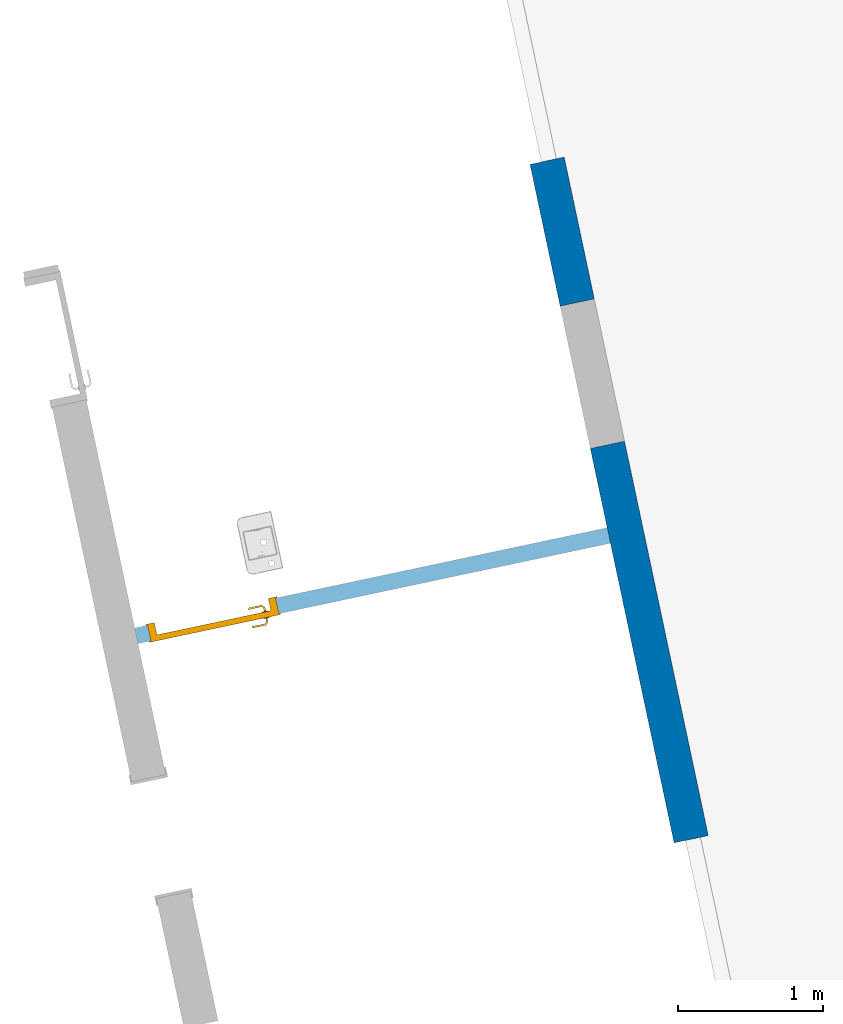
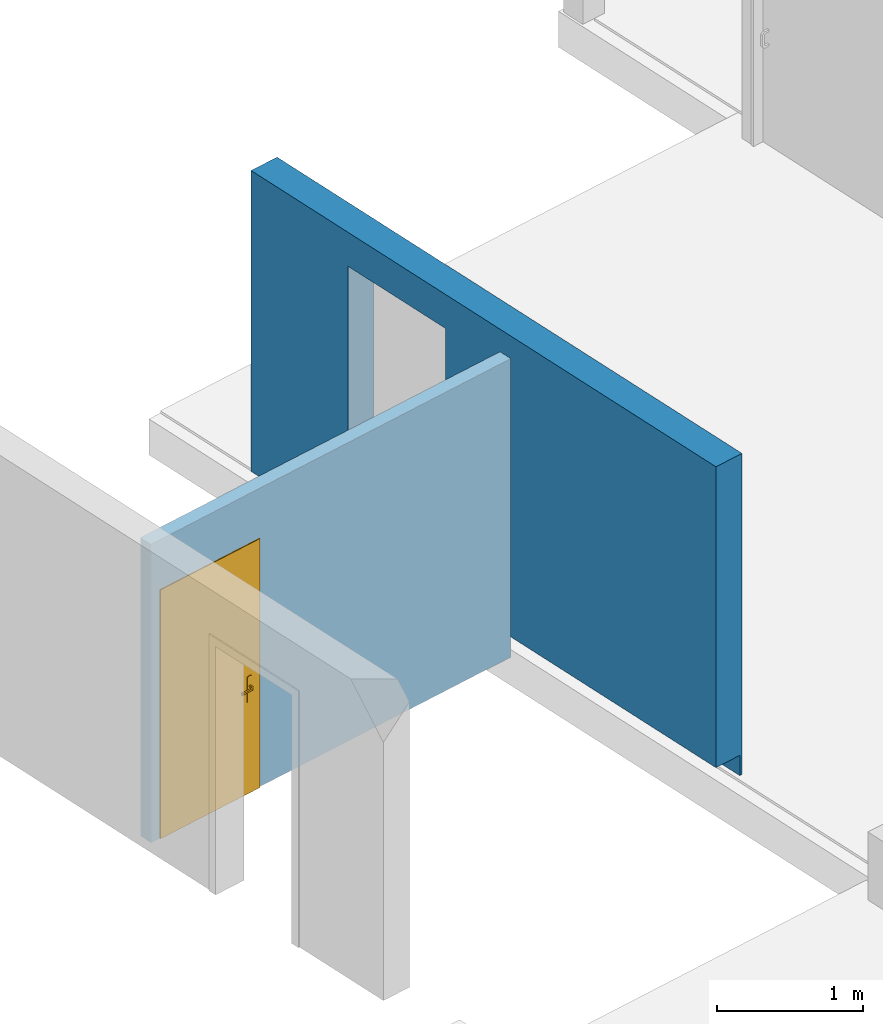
# One storey, part 5 of 17: 1 door, 1 wall, 1 opening, plus 1 element that does not belong to this part.
"""IFC2X3 building model written with IfcOpenShell, lengths in centimetres."""

from ifc_helpers import new_model, entity, si_unit, converted_unit, derived_unit, direction, frame, frame_2d, origin, place, context, subcontext, project, spatial, rectangle, extrude, faceted_brep, source, transform, mapped, material, layer, layer_set, layer_usage, type_object, type_shapes, element, fill, save


model = new_model("IFC2X3")

# Units and contexts
model_context = context("Model", 3, precision=0.001, world=origin(), true_north=direction((6.12303176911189e-17, 1.0)))
body_context = subcontext(model_context, "Body", "Model", "MODEL_VIEW")
ifc_project = project(units=[si_unit("LENGTHUNIT", "METRE", prefix="CENTI"), si_unit("AREAUNIT", "SQUARE_METRE"), si_unit("VOLUMEUNIT", "CUBIC_METRE"), converted_unit("PLANEANGLEUNIT", "DEGREE", entity("IfcRatioMeasure", 0.0174532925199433), si_unit("PLANEANGLEUNIT", "RADIAN"), dimensions=[0, 0, 0, 0, 0, 0, 0]), si_unit("MASSUNIT", "GRAM", prefix="KILO"), derived_unit("MASSDENSITYUNIT", [(si_unit("MASSUNIT", "GRAM", prefix="KILO"), 1), (si_unit("LENGTHUNIT", "METRE"), -3)]), derived_unit("IONCONCENTRATIONUNIT", [(si_unit("MASSUNIT", "GRAM", prefix="KILO"), 1), (si_unit("LENGTHUNIT", "METRE"), -3)]), derived_unit("MOMENTOFINERTIAUNIT", [(si_unit("LENGTHUNIT", "METRE"), 4)]), si_unit("TIMEUNIT", "SECOND"), si_unit("FREQUENCYUNIT", "HERTZ"), si_unit("THERMODYNAMICTEMPERATUREUNIT", "DEGREE_CELSIUS"), derived_unit("THERMALTRANSMITTANCEUNIT", [(si_unit("MASSUNIT", "GRAM", prefix="KILO"), 1), (si_unit("THERMODYNAMICTEMPERATUREUNIT", "KELVIN"), -1), (si_unit("TIMEUNIT", "SECOND"), -3)]), derived_unit("THERMALCONDUCTANCEUNIT", [(si_unit("MASSUNIT", "GRAM", prefix="KILO"), 1), (si_unit("THERMODYNAMICTEMPERATUREUNIT", "KELVIN"), -1), (si_unit("TIMEUNIT", "SECOND"), -3), (si_unit("LENGTHUNIT", "METRE"), 1)]), derived_unit("VOLUMETRICFLOWRATEUNIT", [(si_unit("LENGTHUNIT", "METRE"), 3), (si_unit("TIMEUNIT", "SECOND"), -1)]), derived_unit("MASSFLOWRATEUNIT", [(si_unit("MASSUNIT", "GRAM", prefix="KILO"), 1), (si_unit("TIMEUNIT", "SECOND"), -1)]), derived_unit("ROTATIONALFREQUENCYUNIT", [(si_unit("TIMEUNIT", "SECOND"), -1)]), si_unit("ELECTRICCURRENTUNIT", "AMPERE"), si_unit("ELECTRICVOLTAGEUNIT", "VOLT"), si_unit("POWERUNIT", "WATT"), si_unit("FORCEUNIT", "NEWTON", prefix="KILO"), si_unit("ILLUMINANCEUNIT", "LUX"), si_unit("LUMINOUSFLUXUNIT", "LUMEN"), si_unit("LUMINOUSINTENSITYUNIT", "CANDELA"), derived_unit("USERDEFINED", [(si_unit("MASSUNIT", "GRAM", prefix="KILO"), -1), (si_unit("LENGTHUNIT", "METRE"), -2), (si_unit("TIMEUNIT", "SECOND"), 3), (si_unit("LUMINOUSFLUXUNIT", "LUMEN"), 1)]), derived_unit("USERDEFINED", [(si_unit("MASSUNIT", "GRAM", prefix="KILO"), 1), (si_unit("TIMEUNIT", "SECOND"), -3), (si_unit("LENGTHUNIT", "METRE"), 3), (si_unit("ELECTRICCURRENTUNIT", "AMPERE"), -2)]), derived_unit("SOUNDPOWERUNIT", [(si_unit("MASSUNIT", "GRAM", prefix="KILO"), 1), (si_unit("TIMEUNIT", "SECOND"), -3), (si_unit("LENGTHUNIT", "METRE"), 2)]), derived_unit("SOUNDPRESSUREUNIT", [(si_unit("MASSUNIT", "GRAM", prefix="KILO"), 1), (si_unit("LENGTHUNIT", "METRE"), -1), (si_unit("TIMEUNIT", "SECOND"), -2)]), derived_unit("LINEARVELOCITYUNIT", [(si_unit("LENGTHUNIT", "METRE"), 1), (si_unit("TIMEUNIT", "SECOND"), -1)]), si_unit("PRESSUREUNIT", "PASCAL"), derived_unit("USERDEFINED", [(si_unit("MASSUNIT", "GRAM", prefix="KILO"), 1), (si_unit("LENGTHUNIT", "METRE"), -2), (si_unit("TIMEUNIT", "SECOND"), -2)]), derived_unit("LINEARFORCEUNIT", [(si_unit("MASSUNIT", "GRAM", prefix="KILO"), 1), (si_unit("TIMEUNIT", "SECOND"), -2)]), derived_unit("PLANARFORCEUNIT", [(si_unit("MASSUNIT", "GRAM", prefix="KILO"), 1), (si_unit("LENGTHUNIT", "METRE"), -1), (si_unit("TIMEUNIT", "SECOND"), -2)]), derived_unit("SPECIFICHEATCAPACITYUNIT", [(si_unit("THERMODYNAMICTEMPERATUREUNIT", "KELVIN"), -1), (si_unit("LENGTHUNIT", "METRE"), 2), (si_unit("TIMEUNIT", "SECOND"), -2)]), derived_unit("HEATINGVALUEUNIT", [(si_unit("LENGTHUNIT", "METRE"), 2), (si_unit("TIMEUNIT", "SECOND"), -2)]), derived_unit("VAPORPERMEABILITYUNIT", [(si_unit("LENGTHUNIT", "METRE"), -1), (si_unit("TIMEUNIT", "SECOND"), 1)]), derived_unit("DYNAMICVISCOSITYUNIT", [(si_unit("MASSUNIT", "GRAM", prefix="KILO"), 1), (si_unit("TIMEUNIT", "SECOND"), -1), (si_unit("LENGTHUNIT", "METRE"), -1)]), derived_unit("THERMALEXPANSIONCOEFFICIENTUNIT", [(si_unit("THERMODYNAMICTEMPERATUREUNIT", "KELVIN"), -1)]), derived_unit("MODULUSOFELASTICITYUNIT", [(si_unit("MASSUNIT", "GRAM", prefix="KILO"), 1), (si_unit("LENGTHUNIT", "METRE"), -1), (si_unit("TIMEUNIT", "SECOND"), -2)]), derived_unit("ISOTHERMALMOISTURECAPACITYUNIT", [(si_unit("LENGTHUNIT", "METRE"), 3), (si_unit("MASSUNIT", "GRAM", prefix="KILO"), -1)]), derived_unit("MOISTUREDIFFUSIVITYUNIT", [(si_unit("TIMEUNIT", "SECOND"), -1), (si_unit("LENGTHUNIT", "METRE"), 2)])], contexts=[model_context])

# Site, building, storey
site_placement = place(None, frame((14083.8920177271, -6853.25409548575, 6900.0), z_axis=(0.0, 0.0, 1.0), x_axis=(0.978188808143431, 0.207717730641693, 0.0)))
site = spatial("IfcSite", under=ifc_project, at=site_placement, Name="Surface", CompositionType="ELEMENT")
building_placement = place(site_placement, origin())
building = spatial("IfcBuilding", under=site, at=building_placement, CompositionType="ELEMENT")
storey_placement = place(building_placement, origin())
storey = spatial("IfcBuildingStorey", under=building, at=storey_placement, Name="_Rez de chaussée Séjour", CompositionType="ELEMENT", Elevation=2.07727662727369e-10)

# Wall
ifc_material_1 = material(Name="__ ENDUIT_Blanc")
ifc_layer_1 = layer(ifc_material_1, 2.0)
ifc_material_2 = material(Name="Béton, précoulé")
ifc_layer_2 = layer(ifc_material_2, 20.0)
ifc_layer_3 = layer(ifc_material_1, 2.0)
ifc_layer_set_1 = layer_set([ifc_layer_1, ifc_layer_2, ifc_layer_3], Name="Mur de base:*BRIQUE 24 (20 + INT 2 + EXT 2) (enduit 2 faces)")
wall_type_1 = type_object("IfcWallType", Name="Mur de base:*BRIQUE 24 (20 + INT 2 + EXT 2) (enduit 2 faces)", PredefinedType="STANDARD", material=ifc_layer_set_1)
wall_1_placement = place(storey_placement, frame((-6795.9551432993, 14937.1724778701, 0.0), z_axis=(0.0, 0.0, 1.0), x_axis=(0.0, 1.0, 0.0)))
element("IfcWall", 1, at=wall_1_placement, inside=storey, type_object=wall_type_1, Name="Mur de base:*BRIQUE 24 (20 + INT 2 + EXT 2) (enduit 2 faces)", ObjectType="Mur de base:*BRIQUE 24 (20 + INT 2 + EXT 2) (enduit 2 faces)", context=body_context, shape_type="Brep", body=[
    faceted_brep([(0.0, -12.0, 0.0), (476.766666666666, -12.0, 0.0), (476.766666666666, -12.0, 269.0), (0.0, -12.0, 269.0), (377.129936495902, -12.0, 240.500000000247), (377.129936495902, -12.0, 17.0), (277.129936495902, -12.0, 17.0), (277.129936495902, -12.0, 240.500000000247), (0.0, 12.0, 269.0), (188.853153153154, 12.0, 269.0), (384.766666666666, 12.0, 269.0), (452.766666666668, 12.0, 269.0), (476.766666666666, 12.0, 269.0), (476.766666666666, 12.0, 17.0), (377.129936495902, 12.0, 17.0), (377.129936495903, 12.0, 240.500000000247), (277.129936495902, 12.0, 240.500000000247), (277.129936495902, 12.0, 17.0), (0.0, 12.0, 17.0), (0.0, -10.0, 0.0), (476.766666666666, -10.0, 0.0), (0.0, -10.0, 17.0), (377.129936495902, -10.0, 17.0), (277.129936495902, -10.0, 17.0), (476.766666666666, -10.0, 17.0)], [[[0, 1, 2, 3], [4, 5, 6, 7]], [[8, 9, 10, 11, 12, 13, 14, 15, 16, 17, 18]], [[1, 0, 19, 20]], [[3, 2, 12, 11, 10, 9, 8]], [[0, 3, 8, 18, 21, 19]], [[4, 15, 14, 22, 5]], [[15, 4, 7, 16]], [[16, 7, 6, 23, 17]], [[6, 5, 22, 23]], [[2, 1, 20, 24, 13, 12]], [[23, 21, 18, 17]], [[22, 24, 20, 19, 21, 23]], [[24, 22, 14, 13]]]),
])

# Wall, opening, door
ifc_layer_4 = layer(ifc_material_1, 1.0)
ifc_material_3 = material(Name="__ BRIQUE______________________TEST")
ifc_layer_5 = layer(ifc_material_3, 10.0)
ifc_layer_set_2 = layer_set([ifc_layer_4, ifc_layer_5], Name="Mur de base:*BRIQUE 10 + Enduit")
ifc_layer_usage = layer_usage(ifc_layer_set_2, "AXIS2", "NEGATIVE", 5.5)
wall_type_2 = type_object("IfcWallType", Name="Mur de base:*BRIQUE 10 + Enduit", PredefinedType="STANDARD", material=ifc_layer_set_2)
wall_2_placement = place(storey_placement, frame((-6807.9551432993, 15153.1673447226, 0.0), z_axis=(0.0, 0.0, 1.0), x_axis=(-1.0, 0.0, 0.0)))
wall_2 = element("IfcWallStandardCase", 2, at=wall_2_placement, inside=storey, type_object=wall_type_2, material=ifc_layer_usage, Name="Mur de base:*BRIQUE 10 + Enduit", ObjectType="Mur de base:*BRIQUE 10 + Enduit", context=body_context, shape_type="SweptSolid", body=[
    extrude(rectangle(XDim=332.000000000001, YDim=11.000000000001, at=frame_2d((166.0, 0.0), x_axis=(-1.0, 0.0))), origin(), (0.0, 0.0, 1.0), 250.0),
])
opening_placement = place(wall_2_placement, frame((233.0, -5.5, 0.0)))
opening = element("IfcOpeningElement", 3, at=opening_placement, cuts=wall_2, Name="*Porte_alveolaire:Pp 83 x 204:1", ObjectType="Opening", context=body_context, shape_type="SweptSolid", body=[
    extrude(rectangle(XDim=207.5, YDim=89.9999999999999, at=frame_2d((103.75, 45.0), x_axis=(1.0, 0.0))), frame((0.0, 0.0, 0.0), z_axis=(0.0, 1.0, 0.0), x_axis=(0.0, 0.0, 1.0)), (0.0, 0.0, 1.0), 11.0),
])
ifc_material_4 = material(Name="<Unnamed>")
door_style = type_object("IfcDoorStyle", Name="*Porte_alveolaire:Pp 83 x 204", ConstructionType="NOTDEFINED", OperationType="NOTDEFINED", ParameterTakesPrecedence=False, Sizeable=False, material=ifc_material_4)
shared_shape = source(origin(), body_context, "Body", "Brep", [
    faceted_brep([(81.2025298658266, 3.69990393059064, 90.7780440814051), (80.7974701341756, 3.69990393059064, 90.7780440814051), (80.3999999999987, 3.69990393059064, 90.699999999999), (80.3999999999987, 3.69990393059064, 89.300000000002), (80.7974701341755, 3.69990393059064, 89.221955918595), (81.2025298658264, 3.69990393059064, 89.2219559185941), (81.6000000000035, 3.69990393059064, 89.2999999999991), (81.6000000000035, 3.69990393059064, 90.699999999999), (80.3999999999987, 5.94842438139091, 90.699999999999), (80.3999999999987, 5.94842438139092, 89.300000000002), (80.7974701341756, 6.11306190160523, 90.7780440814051), (81.2025298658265, 6.28084313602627, 90.7780440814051), (79.5838906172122, 7.89948238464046, 90.7780440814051), (79.4161093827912, 7.49442265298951, 90.7780440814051), (71.079312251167, 7.49442265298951, 90.7780440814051), (70.911531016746, 7.89948238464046, 90.7780440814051), (70.1451046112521, 7.13305597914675, 90.7780440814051), (70.431525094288, 6.84663549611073, 90.7780440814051), (81.6000000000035, 6.44548065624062, 90.699999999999), (81.6000000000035, 6.44548065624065, 89.2999999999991), (81.2025298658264, 6.28084313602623, 89.2219559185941), (80.7974701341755, 6.1130619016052, 89.221955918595), (79.4161093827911, 7.49442265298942, 89.221955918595), (79.5838906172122, 7.89948238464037, 89.2219559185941), (70.911531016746, 7.89948238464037, 89.221955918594), (71.079312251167, 7.49442265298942, 89.221955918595), (70.4315250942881, 6.84663549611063, 89.221955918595), (70.1451046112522, 7.13305597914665, 89.221955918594), (79.2514718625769, 7.09695251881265, 89.300000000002), (79.2514718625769, 7.09695251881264, 90.699999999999), (79.7485281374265, 8.29695251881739, 90.699999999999), (79.7485281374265, 8.29695251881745, 89.2999999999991), (75.2477108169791, 7.0969525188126, 90.699999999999), (71.2439497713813, 7.09695251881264, 90.699999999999), (71.2439497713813, 7.09695251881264, 89.300000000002), (75.2477108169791, 7.09695251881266, 89.300000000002), (75.247710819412, 7.71239668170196, 90.7878116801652), (74.7399422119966, 8.29695251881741, 90.699999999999), (70.7468934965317, 8.29695251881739, 90.699999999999), (75.7554791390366, 8.29695251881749, 89.2999999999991), (70.7468934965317, 8.29695251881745, 89.2999999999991), (75.2477107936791, 7.71239667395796, 89.2121883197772), (69.8640507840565, 7.41410980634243, 90.699999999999), (69.8640507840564, 7.41410980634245, 89.2999999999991), (70.7125789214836, 6.56558166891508, 89.300000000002), (70.7125789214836, 6.56558166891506, 90.699999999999)], [[[0, 1, 2, 3, 4, 5, 6, 7]], [[8, 9, 3, 2]], [[1, 10, 8, 2]], [[1, 0, 11, 12, 13, 10]], [[14, 15, 16, 17]], [[7, 18, 11, 0]], [[18, 7, 6, 19]], [[6, 5, 20, 19]], [[5, 4, 21, 22, 23, 20]], [[24, 25, 26, 27]], [[4, 3, 9, 21]], [[28, 9, 8, 29]], [[8, 10, 13, 29]], [[18, 30, 12, 11]], [[31, 30, 18, 19]], [[19, 20, 23, 31]], [[21, 9, 28, 22]], [[28, 29, 32, 33, 34, 35]], [[36, 32, 13]], [[37, 38, 15]], [[37, 12, 30]], [[36, 12, 37]], [[14, 32, 36]], [[36, 15, 14]], [[29, 13, 32]], [[32, 14, 33]], [[12, 36, 13]], [[15, 36, 37]], [[30, 31, 39, 40, 38, 37]], [[23, 41, 39]], [[24, 39, 41]], [[39, 31, 23]], [[39, 24, 40]], [[22, 35, 41]], [[41, 23, 22]], [[41, 35, 25]], [[35, 22, 28]], [[34, 25, 35]], [[24, 41, 25]], [[17, 16, 42, 43, 27, 26, 44, 45]], [[44, 34, 33, 45]], [[33, 14, 17, 45]], [[15, 38, 42, 16]], [[42, 38, 40, 43]], [[24, 27, 43, 40]], [[34, 44, 26, 25]]]),
    faceted_brep([(80.7974701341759, -1.30009606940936, 90.7780440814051), (81.2025298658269, -1.30009606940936, 90.7780440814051), (81.6000000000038, -1.30009606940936, 90.6999999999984), (81.6000000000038, -1.30009606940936, 89.2999999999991), (81.2025298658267, -1.30009606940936, 89.221955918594), (80.7974701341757, -1.30009606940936, 89.221955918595), (80.399999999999, -1.30009606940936, 89.3000000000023), (80.3999999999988, -1.30009606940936, 90.699999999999), (81.2025298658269, -3.90055361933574, 90.7780440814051), (81.600000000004, -4.06519113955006, 90.6999999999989), (80.7974701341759, -3.73277238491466, 90.7780440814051), (79.4298602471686, -5.10038227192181, 90.7780440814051), (79.5976414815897, -5.50544200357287, 90.7780440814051), (70.9142453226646, -5.50544200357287, 90.778044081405), (71.0820265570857, -5.10038227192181, 90.778044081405), (70.4342394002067, -4.45259511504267, 90.778044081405), (70.1478189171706, -4.73901559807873, 90.778044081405), (80.3999999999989, -3.56813486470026, 90.699999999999), (80.399999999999, -3.56813486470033, 89.3000000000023), (80.7974701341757, -3.73277238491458, 89.221955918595), (81.2025298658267, -3.90055361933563, 89.221955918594), (79.5976414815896, -5.5054420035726, 89.221955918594), (79.4298602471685, -5.10038227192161, 89.221955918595), (71.0820265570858, -5.10038227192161, 89.221955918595), (70.9142453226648, -5.5054420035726, 89.221955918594), (70.1478189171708, -4.73901559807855, 89.221955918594), (70.4342394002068, -4.45259511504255, 89.221955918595), (81.6000000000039, -4.06519113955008, 89.2999999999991), (79.7622790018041, -5.90291213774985, 90.6999999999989), (79.2652227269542, -4.70291213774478, 90.699999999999), (79.2652227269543, -4.70291213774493, 89.3000000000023), (79.762279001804, -5.90291213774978, 89.2999999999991), (75.2559433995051, -5.31837634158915, 90.7878115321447), (75.7692302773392, -5.90291213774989, 90.6999999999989), (70.7496078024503, -5.90291213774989, 90.6999999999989), (75.2559434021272, -4.70291213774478, 90.699999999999), (71.2466640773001, -4.70291213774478, 90.6999999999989), (75.2559436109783, -4.70291213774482, 89.3000000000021), (71.2466640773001, -4.70291213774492, 89.3000000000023), (75.2559434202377, -5.31837634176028, 89.2121884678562), (74.7426576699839, -5.90291213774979, 89.2999999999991), (70.7496078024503, -5.90291213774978, 89.2999999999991), (70.7152932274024, -4.17154128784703, 89.300000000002), (69.866765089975, -5.02006942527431, 89.2999999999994), (69.8667650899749, -5.02006942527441, 90.6999999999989), (70.7152932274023, -4.1715412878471, 90.6999999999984)], [[[0, 1, 2, 3, 4, 5, 6, 7]], [[2, 1, 8, 9]], [[1, 0, 10, 11, 12, 8]], [[13, 14, 15, 16]], [[0, 7, 17, 10]], [[18, 17, 7, 6]], [[5, 19, 18, 6]], [[5, 4, 20, 21, 22, 19]], [[23, 24, 25, 26]], [[3, 27, 20, 4]], [[9, 27, 3, 2]], [[9, 8, 12, 28]], [[10, 17, 29, 11]], [[30, 29, 17, 18]], [[18, 19, 22, 30]], [[20, 27, 31, 21]], [[28, 31, 27, 9]], [[12, 32, 33]], [[13, 33, 32]], [[33, 28, 12]], [[33, 13, 34]], [[11, 35, 32]], [[32, 12, 11]], [[32, 35, 14]], [[35, 11, 29]], [[36, 14, 35]], [[13, 32, 14]], [[30, 37, 38, 36, 35, 29]], [[39, 37, 22]], [[40, 41, 24]], [[40, 21, 31]], [[39, 21, 40]], [[23, 37, 39]], [[39, 24, 23]], [[30, 22, 37]], [[37, 23, 38]], [[21, 39, 22]], [[24, 39, 40]], [[31, 28, 33, 34, 41, 40]], [[42, 26, 25, 43, 44, 16, 15, 45]], [[13, 16, 44, 34]], [[36, 45, 15, 14]], [[42, 45, 36, 38]], [[38, 23, 26, 42]], [[24, 41, 43, 25]], [[44, 43, 41, 34]]]),
    faceted_brep([(83.0, 3.19990393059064, 77.0), (83.0, 3.19990393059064, 98.0), (82.0352761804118, 3.19990393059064, 98.3996016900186), (81.0, 3.19990393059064, 98.5358983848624), (79.9647238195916, 3.19990393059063, 98.3996016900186), (79.0, 3.19990393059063, 98.0), (79.0, 3.19990393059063, 77.0), (79.9647238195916, 3.19990393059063, 76.6003983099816), (81.0, 3.19990393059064, 76.4641016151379), (82.0352761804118, 3.19990393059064, 76.6003983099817), (81.0, 3.69990393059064, 98.5358983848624), (82.0352761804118, 3.69990393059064, 98.3996016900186), (83.0, 3.69990393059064, 98.0), (83.0, 3.69990393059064, 77.0), (82.0352761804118, 3.69990393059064, 76.6003983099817), (81.0, 3.69990393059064, 76.4641016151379), (79.9647238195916, 3.69990393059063, 76.6003983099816), (79.0, 3.69990393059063, 77.0), (79.0, 3.69990393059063, 98.0), (79.9647238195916, 3.69990393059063, 98.3996016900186)], [[[0, 1, 2, 3, 4, 5, 6, 7, 8, 9]], [[10, 11, 12, 13, 14, 15, 16, 17, 18, 19]], [[4, 19, 18, 5]], [[3, 10, 19, 4]], [[2, 11, 10, 3]], [[2, 1, 12, 11]], [[12, 1, 0, 13]], [[9, 14, 13, 0]], [[8, 15, 14, 9]], [[7, 16, 15, 8]], [[7, 6, 17, 16]], [[17, 6, 5, 18]]]),
    faceted_brep([(81.0, -1.30009606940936, 76.4641016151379), (82.0352761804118, -1.30009606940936, 76.6003983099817), (83.0, -1.30009606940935, 77.0), (83.0, -1.30009606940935, 98.0), (82.0352761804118, -1.30009606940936, 98.3996016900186), (81.0, -1.30009606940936, 98.5358983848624), (79.9647238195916, -1.30009606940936, 98.3996016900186), (79.0, -1.30009606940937, 98.0), (79.0, -1.30009606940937, 77.0), (79.9647238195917, -1.30009606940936, 76.6003983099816), (83.0, -0.800096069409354, 98.0), (83.0, -0.800096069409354, 77.0), (82.0352761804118, -0.800096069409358, 76.6003983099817), (81.0, -0.800096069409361, 76.4641016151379), (79.9647238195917, -0.800096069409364, 76.6003983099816), (79.0, -0.800096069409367, 77.0), (79.0, -0.800096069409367, 98.0), (79.9647238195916, -0.800096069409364, 98.3996016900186), (81.0, -0.800096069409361, 98.5358983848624), (82.0352761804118, -0.800096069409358, 98.3996016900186)], [[[0, 1, 2, 3, 4, 5, 6, 7, 8, 9]], [[10, 11, 12, 13, 14, 15, 16, 17, 18, 19]], [[1, 12, 11, 2]], [[0, 13, 12, 1]], [[9, 14, 13, 0]], [[9, 8, 15, 14]], [[15, 8, 7, 16]], [[6, 17, 16, 7]], [[5, 18, 17, 6]], [[4, 19, 18, 5]], [[4, 3, 10, 19]], [[10, 3, 2, 11]]]),
    faceted_brep([(90.0, -9.60694093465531e-05, 0.0), (91.0, -9.60694093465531e-05, 0.0), (91.0, -0.800096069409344, 0.0), (86.5000000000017, -0.800096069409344, 0.0), (86.5000000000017, 3.19990393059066, 0.0), (85.0, 3.19990393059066, 0.0), (85.0, 11.7999039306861, 0.0), (91.0, 11.7999039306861, 0.0), (91.0, 10.9999039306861, 0.0), (90.0, 10.9999039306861, 0.0), (90.0, 10.9999039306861, 207.5), (90.0, -9.60694093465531e-05, 207.5), (91.0, 10.9999039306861, 208.5), (-1.0, 10.9999039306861, 208.5), (-1.0, 10.9999039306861, 0.0), (0.0, 10.9999039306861, 0.0), (0.0, 10.9999039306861, 207.5), (91.0, 11.7999039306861, 208.5), (85.0, 11.7999039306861, 202.500000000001), (5.0, 11.7999039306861, 202.500000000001), (5.0, 11.7999039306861, 0.0), (-1.0, 11.7999039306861, 0.0), (-1.0, 11.7999039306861, 208.5), (85.0, 3.19990393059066, 202.500000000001), (86.5000000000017, 3.19990393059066, 204.0), (3.50000000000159, 3.19990393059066, 204.0), (3.50000000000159, 3.19990393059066, 0.0), (5.0, 3.19990393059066, 0.0), (5.0, 3.19990393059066, 202.500000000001), (86.5000000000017, -0.800096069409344, 204.0), (91.0, -0.800096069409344, 208.5), (-1.0, -0.800096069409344, 208.5), (-1.0, -0.800096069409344, 0.0), (3.50000000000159, -0.800096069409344, 0.0), (3.50000000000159, -0.800096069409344, 204.0), (91.0, -9.60694093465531e-05, 208.5), (0.0, -9.60694093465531e-05, 207.5), (0.0, -9.60694093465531e-05, 0.0), (-1.0, -9.60694093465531e-05, 0.0), (-1.0, -9.60694093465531e-05, 208.5)], [[[0, 1, 2, 3, 4, 5, 6, 7, 8, 9]], [[9, 10, 11, 0]], [[8, 12, 13, 14, 15, 16, 10, 9]], [[7, 17, 12, 8]], [[6, 18, 19, 20, 21, 22, 17, 7]], [[5, 23, 18, 6]], [[4, 24, 25, 26, 27, 28, 23, 5]], [[3, 29, 24, 4]], [[2, 30, 31, 32, 33, 34, 29, 3]], [[1, 35, 30, 2]], [[0, 11, 36, 37, 38, 39, 35, 1]], [[16, 15, 37, 36]], [[37, 15, 14, 21, 20, 27, 26, 33, 32, 38]], [[22, 21, 14, 13]], [[28, 27, 20, 19]], [[34, 33, 26, 25]], [[39, 38, 32, 31]], [[10, 16, 36, 11]], [[17, 22, 13, 12]], [[23, 28, 19, 18]], [[29, 34, 25, 24]], [[35, 39, 31, 30]]]),
    faceted_brep([(86.5000000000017, -0.800096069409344, 204.0), (3.50000000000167, -0.800096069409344, 204.0), (3.50000000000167, -0.800096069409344, 0.0), (86.5000000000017, -0.800096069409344, 0.0), (86.5000000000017, 3.19990393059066, 204.0), (86.5000000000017, 3.19990393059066, 0.0), (3.50000000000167, 3.19990393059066, 0.0), (3.50000000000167, 3.19990393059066, 204.0)], [[[0, 1, 2, 3]], [[4, 5, 6, 7]], [[3, 5, 4, 0]], [[2, 6, 5, 3]], [[1, 7, 6, 2]], [[0, 4, 7, 1]]]),
])
type_shapes(door_style, [shared_shape])
door_placement = place(opening_placement, frame((90.0, 10.9999039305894, 0.0), z_axis=(0.0, 0.0, 1.0), x_axis=(-1.0, 0.0, 0.0)))
door = element("IfcDoor", 4, at=door_placement, inside=storey, type_object=door_style, material=ifc_material_4, Name="*Porte_alveolaire:Pp 83 x 204", ObjectType="*Porte_alveolaire:Pp 83 x 204", OverallHeight=207.5, OverallWidth=90.0000000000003, context=body_context, shape_type="MappedRepresentation", body=[
    mapped(shared_shape, transform((0.0, 0.0, 0.0), scale=1.0)),
])
fill(opening, door)

save(model, "model.ifc")
